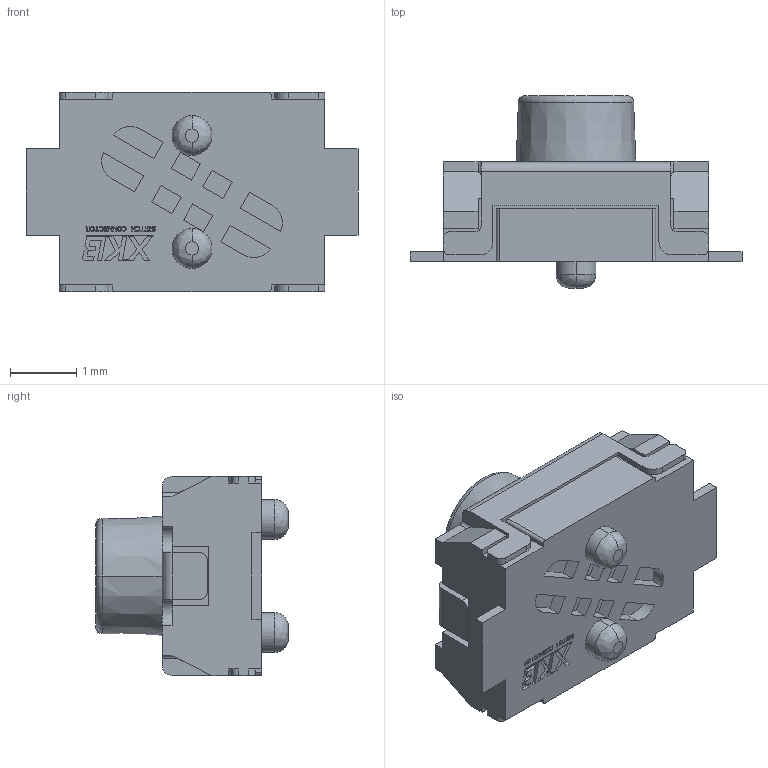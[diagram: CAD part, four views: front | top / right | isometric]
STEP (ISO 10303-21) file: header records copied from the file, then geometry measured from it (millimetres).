
FILE_DESCRIPTION((''),'2;1');
FILE_NAME('TS-1185-X-B-A-A','2019-12-02T',('Administrator'),(''),'PRO/ENGINEER BY PARAMETRIC TECHNOLOGY CORPORATION, 2010280','PRO/ENGINEER BY PARAMETRIC TECHNOLOGY CORPORATION, 2010280','');
FILE_SCHEMA(('CONFIG_CONTROL_DESIGN'));
Length unit declared in the file: millimetre
Products named in the file (1): TS-1185-X-B-A-A
Bounding box: 5 x 2.9 x 3 mm (x, y, z)
Volume: 20.1 mm3; surface area: 59.4 mm2
Topology: 1 solids, 1 shells, 615 faces, 1736 edges, 1154 vertices
Faces by surface type: plane 559, cylinder 48, bspline 4, cone 2, torus 2
Entity records: 19702 total; most frequent: CARTESIAN_POINT 3635, ORIENTED_EDGE 3472, DIRECTION 3062, EDGE_CURVE 1736, VECTOR 1624, LINE 1624, VERTEX_POINT 1154, AXIS2_PLACEMENT_3D 719
